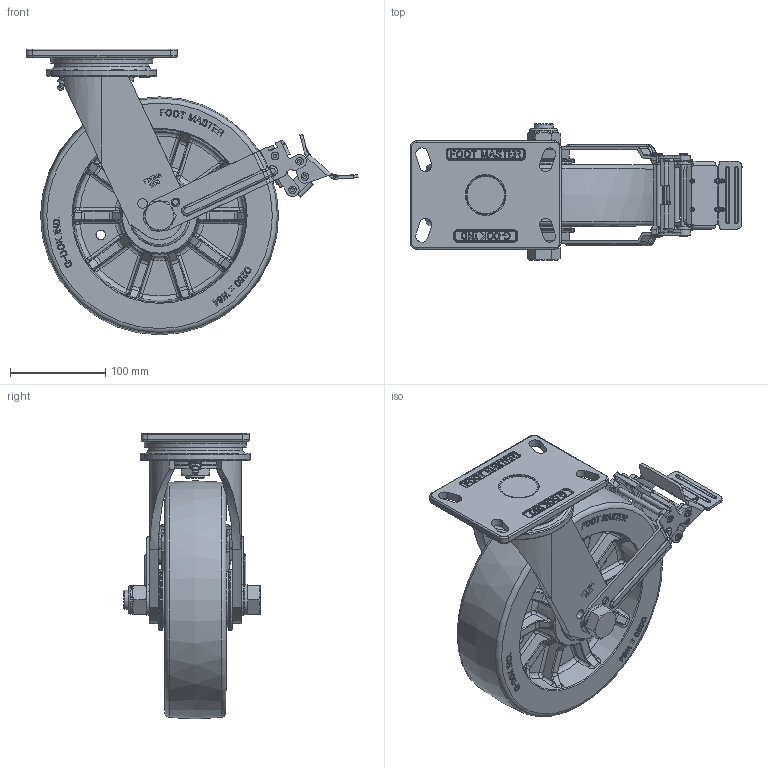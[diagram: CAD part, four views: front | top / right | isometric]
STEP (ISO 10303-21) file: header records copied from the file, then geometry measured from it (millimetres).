
FILE_DESCRIPTION(/* description */ (''),/* implementation_level */ '2;1');
FILE_NAME(/* name */ 'E:\개발도면\GF-SERIES\GF-250\인벤터\홈페이지용 도면-20150310\STEP\GF-250-BSF-MUD.stp',/* time_stamp */ '2015-03-17T20:03:50+09:00',/* author */ ('장용하'),/* organization */ (''),/* preprocessor_version */ 'ST-DEVELOPER v15.6',/* originating_system */ 'Autodesk Inventor 2015',/* authorisation */ '');
FILE_SCHEMA (('AUTOMOTIVE_DESIGN { 1 0 10303 214 3 1 1 }'));
Products named in the file (1): GF-250-BSF-MUD
Bounding box: 348.8 x 143 x 299.98 mm (x, y, z)
Volume: 2829439.9 mm3; surface area: 383897.9 mm2
Topology: 4 solids, 9 shells, 2942 faces, 7480 edges, 4642 vertices
Faces by surface type: plane 1180, bspline 798, cylinder 705, torus 168, cone 75, sphere 16
Full cylindrical faces by diameter (mm): 4 x4, 6 x5, 6.2 x18, 7 x2, 8 x8, 9.7 x2, 10 x4, 20 x6, 20.2 x4, 24.9 x2, 30 x1, 34 x2, 43 x2, 59 x1, 64.519 x2, 115 x1
Entity records: 101194 total; most frequent: CARTESIAN_POINT 33057, ORIENTED_EDGE 14572, DIRECTION 12175, EDGE_CURVE 7282, VERTEX_POINT 4607, AXIS2_PLACEMENT_3D 4219, LINE 3737, VECTOR 3737
